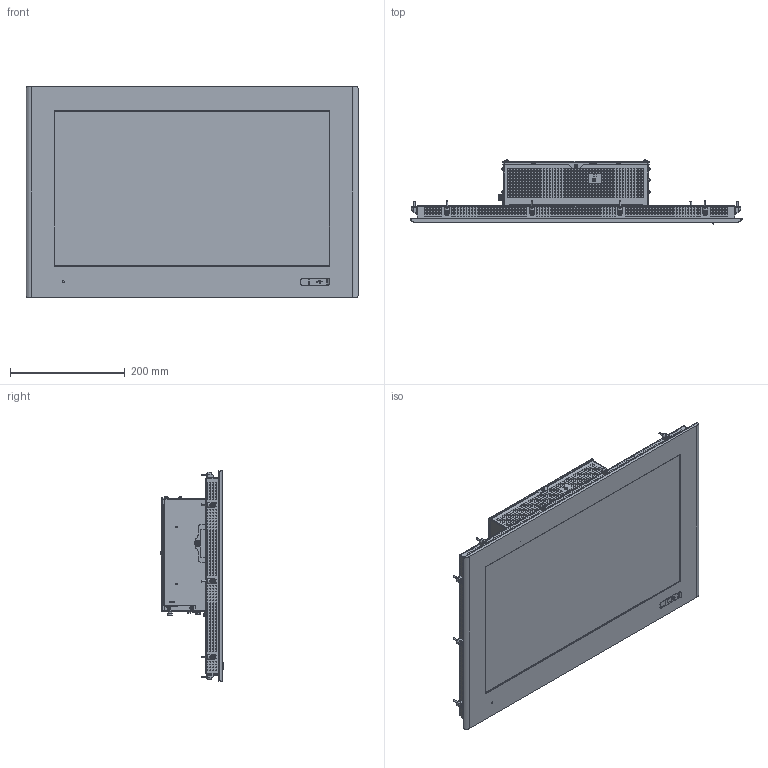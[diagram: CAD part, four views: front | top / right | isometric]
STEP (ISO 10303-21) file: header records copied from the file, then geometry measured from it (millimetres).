
FILE_DESCRIPTION((''),'2;1');
FILE_NAME('C6E22-Panel_215W_RES_S1','2017-03-07T',('manpal'),(''),'PRO/ENGINEER BY PARAMETRIC TECHNOLOGY CORPORATION, 2013410','PRO/ENGINEER BY PARAMETRIC TECHNOLOGY CORPORATION, 2013410','');
FILE_SCHEMA(('AUTOMOTIVE_DESIGN { 1 0 10303 214 1 1 1 1 }'));
Products named in the file (2): C6E22-Panel_215W_RES_S1_
Assembly tree (1 placements, depth 2):
  C6E22-Panel_215W_RES_S1_
    C6E22-Panel_215W_RES_S1_
Bounding box: 578.5 x 111.32 x 367 mm (x, y, z)
Surface area: 1191128.3 mm2 (no closed solid volume)
Topology: 0 solids, 367 shells, 5570 faces, 25726 edges, 20319 vertices
Faces by surface type: plane 4294, cylinder 745, cone 280, bspline 166, sphere 42, torus 41, extrusion 2
Entity records: 291460 total; most frequent: CARTESIAN_POINT 69465, DIRECTION 38219, ORIENTED_EDGE 36242, EDGE_CURVE 25682, VECTOR 21123, LINE 21121, VERTEX_POINT 20319, AXIS2_PLACEMENT_3D 8548
